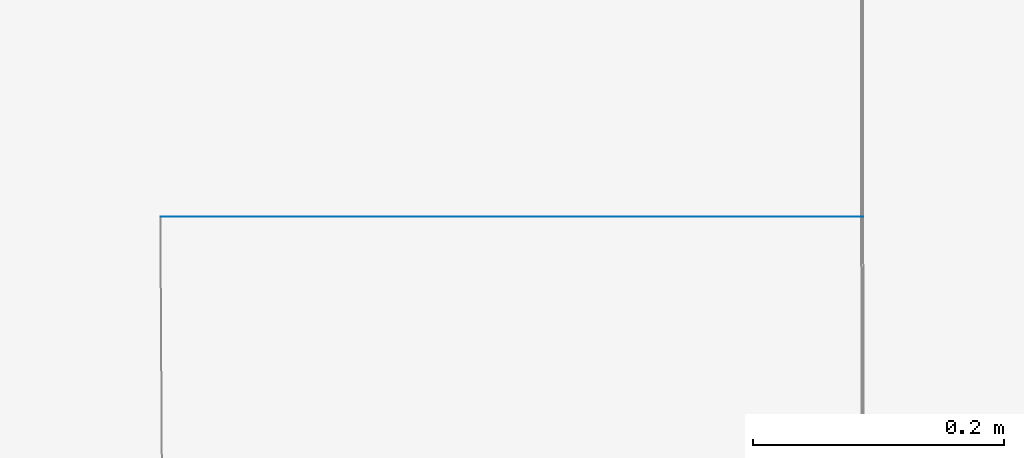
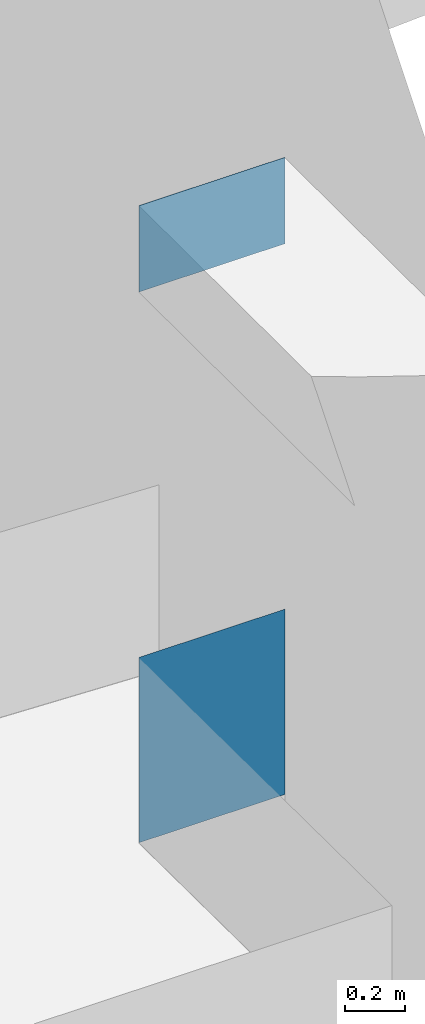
# Not in any storey, part 45 of 59: 4 walls.
"""IFC4 building model written with IfcOpenShell, lengths in metres."""

from ifc_helpers import new_model, entity, si_unit, converted_unit, frame, origin, place, context, subcontext, project, spatial, face_set, surface_model, element, save


model = new_model("IFC4")

# Units and contexts
model_context = context("Model", 3, precision=1e-05, world=origin())
body_context = subcontext(model_context, "Body", "Model", "MODEL_VIEW")
ifc_project = project(units=[converted_unit("PLANEANGLEUNIT", "DEGREE", entity("IfcRatioMeasure", 0.0174532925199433), si_unit("PLANEANGLEUNIT", "RADIAN"), dimensions=[0, 0, 0, 0, 0, 0, 0]), si_unit("AREAUNIT", "SQUARE_METRE"), si_unit("LENGTHUNIT", "METRE")], contexts=[model_context])

# Site, building
site_placement = place(None, origin())
site = spatial("IfcSite", under=ifc_project, at=site_placement, Name="_site")
building_placement = place(site_placement, origin())
building = spatial("IfcBuilding", under=site, at=building_placement, Name="_building")

# Walls
for number, where, name in (
    (1, (0.0, 0.0, 0.0), "Wall"),
    (2, (0.0, 0.0, 0.0), "Wall"),
):
    element("IfcWall", number, at=place(building_placement, frame(where)), inside=building, Name=name, PredefinedType="NOTDEFINED", context=body_context, shape_type="SurfaceModel", body=[
        surface_model("IfcFaceBasedSurfaceModel", [(67.62, 101.859, 215.66), (68.18, 101.859, 215.66), (68.18, 101.859, 215.31), (67.62, 101.859, 215.31)], [face_set([[[0, 1, 2, 3]]])]),
    ])
for number, where, name in (
    (3, (0.0, 0.0, 0.0), "Wall"),
    (4, (0.0, 0.0, 0.0), "Wall"),
):
    element("IfcWall", number, at=place(building_placement, frame(where)), inside=building, Name=name, PredefinedType="NOTDEFINED", context=body_context, shape_type="SurfaceModel", body=[
        surface_model("IfcFaceBasedSurfaceModel", [(68.18, 101.859, 213.082), (67.62, 101.859, 213.082), (67.62, 101.859, 213.832), (68.18, 101.859, 213.832)], [face_set([[[0, 1, 2, 3]]])]),
    ])

save(model, "model.ifc")
